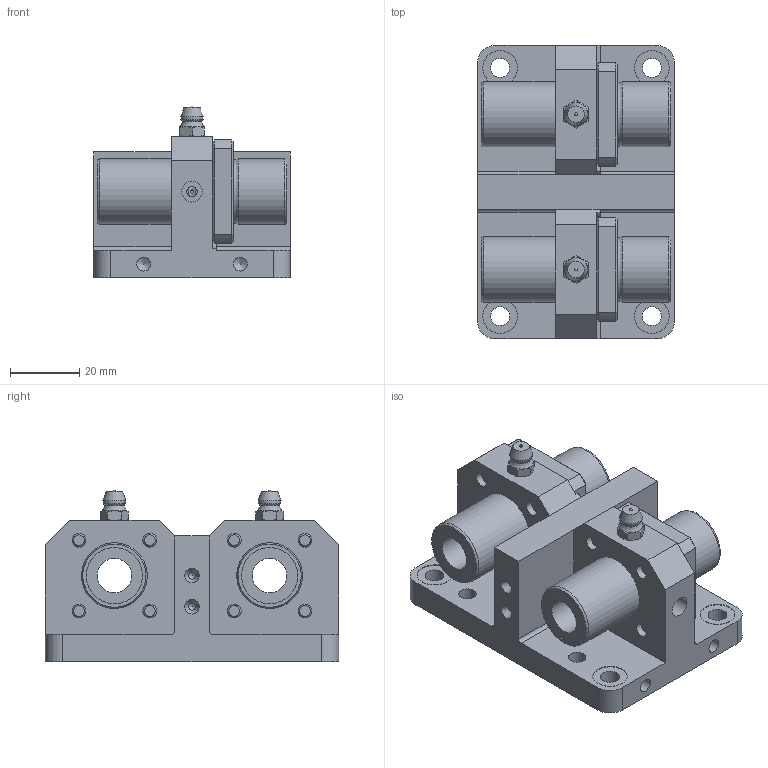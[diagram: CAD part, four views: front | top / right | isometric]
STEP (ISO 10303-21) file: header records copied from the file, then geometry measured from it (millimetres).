
FILE_DESCRIPTION((''),'2;1');
FILE_NAME('D:\製品 (図面)\カタログ用3D\リニアベアリング関連\STEP形式\LUFD\LUFD10.stp','2010-07-29T14:32:17',('Tsuchiya'),(''),'Autodesk Inventor 10','Autodesk Inventor 10','');
FILE_SCHEMA(('AUTOMOTIVE_DESIGN { 1 0 10303 214 1 1 1 1 }'));
Length unit declared in the file: millimetre
Products named in the file (4): LUFD10; LUFD101; LUFD102; LUFD103
Assembly tree (3 placements, depth 2):
  LUFD10
    LUFD101
    LUFD102
    LUFD103
Bounding box: 57 x 85 x 49.8 mm (x, y, z)
Volume: 103817.2 mm3; surface area: 41260 mm2
Topology: 13 solids, 13 shells, 382 faces, 858 edges, 542 vertices
Faces by surface type: plane 160, bspline 75, cylinder 71, cone 60, torus 12, sphere 4
Full cylindrical faces by diameter (mm): 3 x3, 4 x12, 5 x2, 5.5 x2, 6 x4, 7 x8, 10 x4, 16.3 x4, 19 x7
Entity records: 11602 total; most frequent: CARTESIAN_POINT 4152, DIRECTION 1430, ORIENTED_EDGE 1344, EDGE_CURVE 672, EDGE_LOOP 632, AXIS2_PLACEMENT_3D 592, VERTEX_POINT 502, FACE_OUTER_BOUND 382
